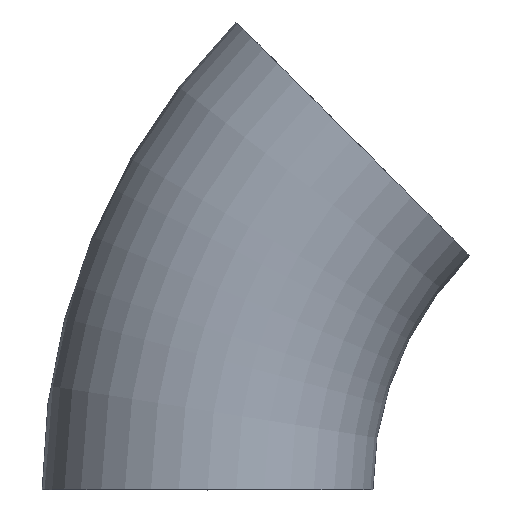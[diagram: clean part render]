
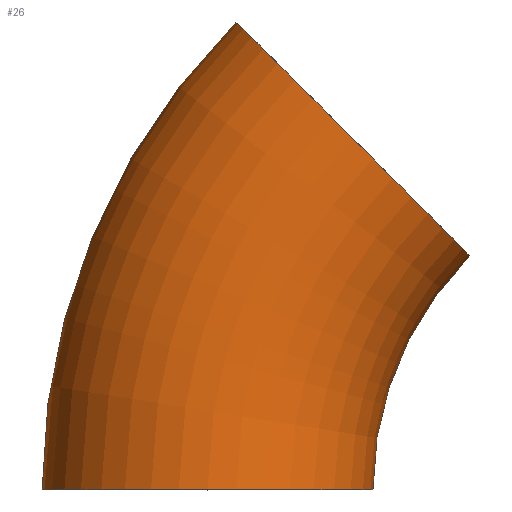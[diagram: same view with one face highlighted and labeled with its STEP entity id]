
A CAD part, top view. The second image highlights one B-rep face of the part: STEP entity #26.
In plain terms, the highlighted toroidal (fillet/blend) face has major radius 57.15 mm and minor radius 19.05 mm.
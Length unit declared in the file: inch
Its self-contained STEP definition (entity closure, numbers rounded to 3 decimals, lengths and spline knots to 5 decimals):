
#1 = CARTESIAN_POINT ( 'NONE',  ( -1.06066, 1.06066, 0. ) ) ;
#8 = CIRCLE ( 'NONE', #153, 1.5 ) ;
#10 = DIRECTION ( 'NONE',  ( 0.707, 0.707, 0. ) ) ;
#11 = DIRECTION ( 'NONE',  ( 0., 0., 1. ) ) ;
#13 = DIRECTION ( 'NONE',  ( 0., 0., 1. ) ) ;
#15 = CIRCLE ( 'NONE', #158, 0.75 ) ;
#16 = DIRECTION ( 'NONE',  ( 1., 0., 0. ) ) ;
#19 = CIRCLE ( 'NONE', #159, 3. ) ;
#26 = ADVANCED_FACE ( 'NONE', ( #95 ), #126, .T. ) ;
#32 = CIRCLE ( 'NONE', #163, 0.75 ) ;
#36 = CARTESIAN_POINT ( 'NONE',  ( -1.59099, 1.59099, 0. ) ) ;
#48 = EDGE_LOOP ( 'NONE', ( #187, #109, #178, #219 ) ) ;
#63 = CARTESIAN_POINT ( 'NONE',  ( -2.12132, 2.12132, 0. ) ) ;
#95 = FACE_OUTER_BOUND ( 'NONE', #48, .T. ) ;
#97 = CARTESIAN_POINT ( 'NONE',  ( 0., 0., 0. ) ) ;
#109 = ORIENTED_EDGE ( 'NONE', *, *, #236, .T. ) ;
#124 = CARTESIAN_POINT ( 'NONE',  ( -1.5, 0., 0. ) ) ;
#126 = TOROIDAL_SURFACE ( 'NONE', #207, 2.25, 0.75 ) ;
#131 = CARTESIAN_POINT ( 'NONE',  ( -3., 0., 0. ) ) ;
#141 = VERTEX_POINT ( 'NONE', #63 ) ;
#153 = AXIS2_PLACEMENT_3D ( 'NONE', #244, #237, #234 ) ;
#158 = AXIS2_PLACEMENT_3D ( 'NONE', #243, #251, #249 ) ;
#159 = AXIS2_PLACEMENT_3D ( 'NONE', #199, #13, #16 ) ;
#163 = AXIS2_PLACEMENT_3D ( 'NONE', #36, #10, #11 ) ;
#170 = DIRECTION ( 'NONE',  ( 0., 0., 1. ) ) ;
#173 = DIRECTION ( 'NONE',  ( 1., 0., 0. ) ) ;
#178 = ORIENTED_EDGE ( 'NONE', *, *, #248, .T. ) ;
#187 = ORIENTED_EDGE ( 'NONE', *, *, #228, .F. ) ;
#193 = VERTEX_POINT ( 'NONE', #124 ) ;
#199 = CARTESIAN_POINT ( 'NONE',  ( 0., 0., 0. ) ) ;
#206 = VERTEX_POINT ( 'NONE', #131 ) ;
#207 = AXIS2_PLACEMENT_3D ( 'NONE', #97, #170, #173 ) ;
#219 = ORIENTED_EDGE ( 'NONE', *, *, #250, .F. ) ;
#228 = EDGE_CURVE ( 'NONE', #141, #238, #32, .T. ) ;
#234 = DIRECTION ( 'NONE',  ( 1., 0., 0. ) ) ;
#236 = EDGE_CURVE ( 'NONE', #141, #206, #19, .T. ) ;
#237 = DIRECTION ( 'NONE',  ( 0., 0., 1. ) ) ;
#238 = VERTEX_POINT ( 'NONE', #1 ) ;
#243 = CARTESIAN_POINT ( 'NONE',  ( -2.25, 0., 0. ) ) ;
#244 = CARTESIAN_POINT ( 'NONE',  ( 0., 0., 0. ) ) ;
#248 = EDGE_CURVE ( 'NONE', #206, #193, #15, .T. ) ;
#249 = DIRECTION ( 'NONE',  ( 0., 0., 1. ) ) ;
#250 = EDGE_CURVE ( 'NONE', #238, #193, #8, .T. ) ;
#251 = DIRECTION ( 'NONE',  ( 0., 1., 0. ) ) ;
